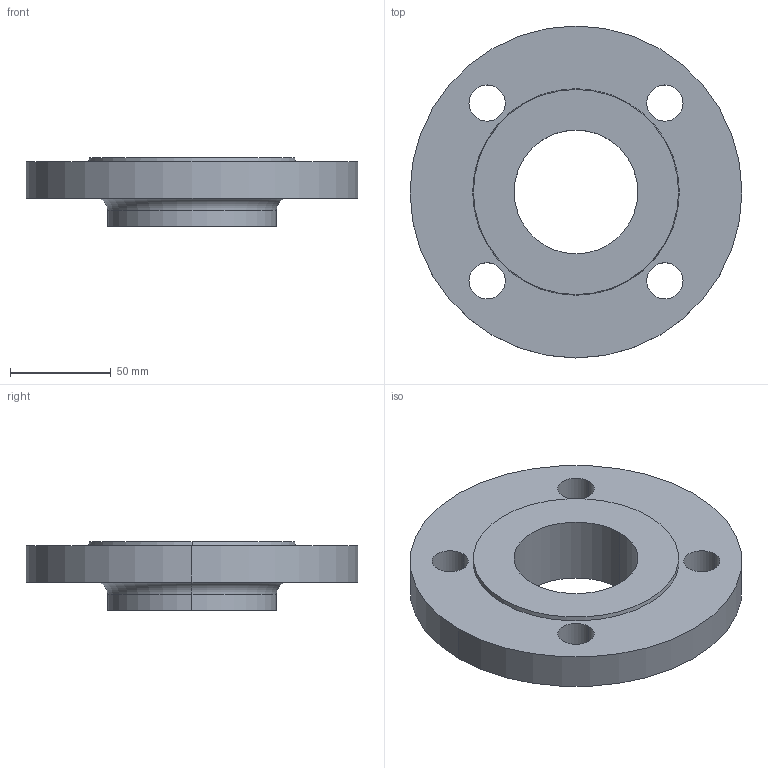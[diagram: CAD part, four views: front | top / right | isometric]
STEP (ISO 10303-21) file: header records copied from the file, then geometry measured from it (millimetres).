
FILE_DESCRIPTION (( 'STEP AP214' ), '1' );
FILE_NAME ('PN40 DN50 Type 12 - Type B Face.STEP', '2018-12-30T04:34:12', ( '' ), ( '' ), 'SwSTEP 2.0', 'SolidWorks 2019', '' );
FILE_SCHEMA (( 'AUTOMOTIVE_DESIGN' ));
Length unit declared in the file: millimetre
Products named in the file (1): PN40 DN50 Type 12 - Type B Face
Bounding box: 165 x 165 x 34 mm (x, y, z)
Volume: 361707.6 mm3; surface area: 58329.7 mm2
Topology: 1 solids, 1 shells, 22 faces, 52 edges, 34 vertices
Faces by surface type: cylinder 14, plane 4, torus 2, cone 2
Entity records: 710 total; most frequent: DIRECTION 134, CARTESIAN_POINT 109, ORIENTED_EDGE 104, AXIS2_PLACEMENT_3D 59, EDGE_CURVE 52, CIRCLE 36, VERTEX_POINT 34, EDGE_LOOP 34
